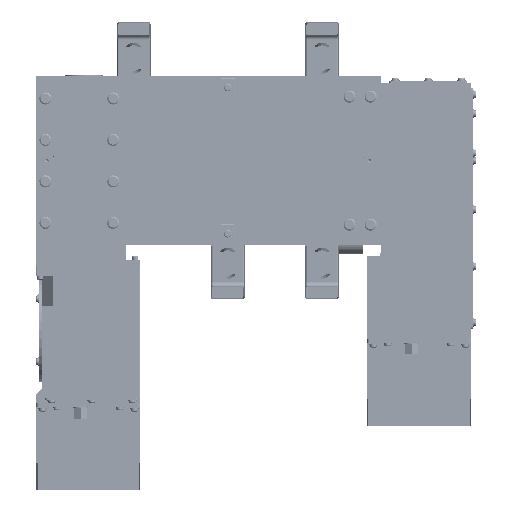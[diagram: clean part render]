
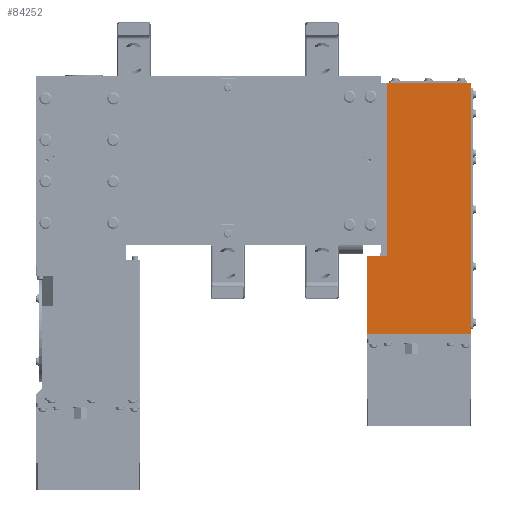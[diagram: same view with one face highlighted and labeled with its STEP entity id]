
A CAD part, front view. The second image highlights one B-rep face of the part: STEP entity #84252.
In plain terms, the highlighted planar face has unit normal (0, -1, 0).
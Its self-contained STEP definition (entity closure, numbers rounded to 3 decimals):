
#2065 = CARTESIAN_POINT ( 'NONE',  ( 0., -197., -127. ) ) ;
#6906 = DIRECTION ( 'NONE',  ( 0., 0., -1. ) ) ;
#11321 = DIRECTION ( 'NONE',  ( -1., 0., 0. ) ) ;
#15739 = VECTOR ( 'NONE', #6906, 1000. ) ;
#23438 = EDGE_CURVE ( 'NONE', #135298, #41976, #129583, .T. ) ;
#28272 = EDGE_CURVE ( 'NONE', #99281, #135298, #164873, .T. ) ;
#33817 = CARTESIAN_POINT ( 'NONE',  ( -138., -197., -127. ) ) ;
#33911 = CARTESIAN_POINT ( 'NONE',  ( 0., -197., -230. ) ) ;
#39461 = ORIENTED_EDGE ( 'NONE', *, *, #42286, .T. ) ;
#39471 = VECTOR ( 'NONE', #134570, 1000. ) ;
#40041 = ORIENTED_EDGE ( 'NONE', *, *, #23438, .T. ) ;
#41976 = VERTEX_POINT ( 'NONE', #33817 ) ;
#42286 = EDGE_CURVE ( 'NONE', #147145, #148984, #113557, .T. ) ;
#43075 = VECTOR ( 'NONE', #145570, 1000. ) ;
#47162 = DIRECTION ( 'NONE',  ( 0., 0., 1. ) ) ;
#51276 = CARTESIAN_POINT ( 'NONE',  ( 0., -197., 103. ) ) ;
#52750 = CARTESIAN_POINT ( 'NONE',  ( 0., -197., 103. ) ) ;
#54872 = VECTOR ( 'NONE', #11321, 1000. ) ;
#59889 = DIRECTION ( 'NONE',  ( 0., 0., 1. ) ) ;
#62159 = ORIENTED_EDGE ( 'NONE', *, *, #28272, .T. ) ;
#62209 = VERTEX_POINT ( 'NONE', #102736 ) ;
#70477 = EDGE_CURVE ( 'NONE', #62209, #147145, #89525, .T. ) ;
#72243 = CARTESIAN_POINT ( 'NONE',  ( 0., -197., -230. ) ) ;
#74611 = LINE ( 'NONE', #133996, #39471 ) ;
#80522 = ORIENTED_EDGE ( 'NONE', *, *, #106275, .F. ) ;
#84252 = ADVANCED_FACE ( 'NONE', ( #155672 ), #166051, .F. ) ;
#89525 = LINE ( 'NONE', #139918, #160182 ) ;
#91702 = VECTOR ( 'NONE', #126213, 1000. ) ;
#94636 = DIRECTION ( 'NONE',  ( -1., 0., 0. ) ) ;
#97037 = ORIENTED_EDGE ( 'NONE', *, *, #144474, .T. ) ;
#98362 = VECTOR ( 'NONE', #94636, 1000. ) ;
#99281 = VERTEX_POINT ( 'NONE', #103133 ) ;
#102736 = CARTESIAN_POINT ( 'NONE',  ( 0., -197., -230. ) ) ;
#103133 = CARTESIAN_POINT ( 'NONE',  ( -112., -197., -127. ) ) ;
#106275 = EDGE_CURVE ( 'NONE', #142353, #41976, #74611, .T. ) ;
#112245 = CARTESIAN_POINT ( 'NONE',  ( -112., -197., 103. ) ) ;
#113557 = LINE ( 'NONE', #52750, #43075 ) ;
#118263 = CARTESIAN_POINT ( 'NONE',  ( -138., -197., -230. ) ) ;
#121401 = LINE ( 'NONE', #112245, #15739 ) ;
#124269 = CARTESIAN_POINT ( 'NONE',  ( -112., -197., 103. ) ) ;
#126213 = DIRECTION ( 'NONE',  ( -1., 0., 0. ) ) ;
#126635 = DIRECTION ( 'NONE',  ( 0., 1., 0. ) ) ;
#129583 = LINE ( 'NONE', #2065, #98362 ) ;
#133996 = CARTESIAN_POINT ( 'NONE',  ( -138., -197., -230. ) ) ;
#134570 = DIRECTION ( 'NONE',  ( 0., 0., 1. ) ) ;
#135298 = VERTEX_POINT ( 'NONE', #152266 ) ;
#139918 = CARTESIAN_POINT ( 'NONE',  ( 0., -197., -230. ) ) ;
#142353 = VERTEX_POINT ( 'NONE', #118263 ) ;
#144474 = EDGE_CURVE ( 'NONE', #148984, #99281, #121401, .T. ) ;
#145570 = DIRECTION ( 'NONE',  ( -1., 0., 0. ) ) ;
#147145 = VERTEX_POINT ( 'NONE', #51276 ) ;
#148483 = EDGE_CURVE ( 'NONE', #62209, #142353, #162339, .T. ) ;
#148984 = VERTEX_POINT ( 'NONE', #124269 ) ;
#150554 = ORIENTED_EDGE ( 'NONE', *, *, #148483, .F. ) ;
#152266 = CARTESIAN_POINT ( 'NONE',  ( -121., -197., -127. ) ) ;
#154786 = AXIS2_PLACEMENT_3D ( 'NONE', #33911, #126635, #47162 ) ;
#155672 = FACE_OUTER_BOUND ( 'NONE', #160889, .T. ) ;
#160182 = VECTOR ( 'NONE', #59889, 1000. ) ;
#160889 = EDGE_LOOP ( 'NONE', ( #166910, #39461, #97037, #62159, #40041, #80522, #150554 ) ) ;
#162339 = LINE ( 'NONE', #72243, #91702 ) ;
#164873 = LINE ( 'NONE', #170154, #54872 ) ;
#166051 = PLANE ( 'NONE',  #154786 ) ;
#166910 = ORIENTED_EDGE ( 'NONE', *, *, #70477, .T. ) ;
#170154 = CARTESIAN_POINT ( 'NONE',  ( 0., -197., -127. ) ) ;
